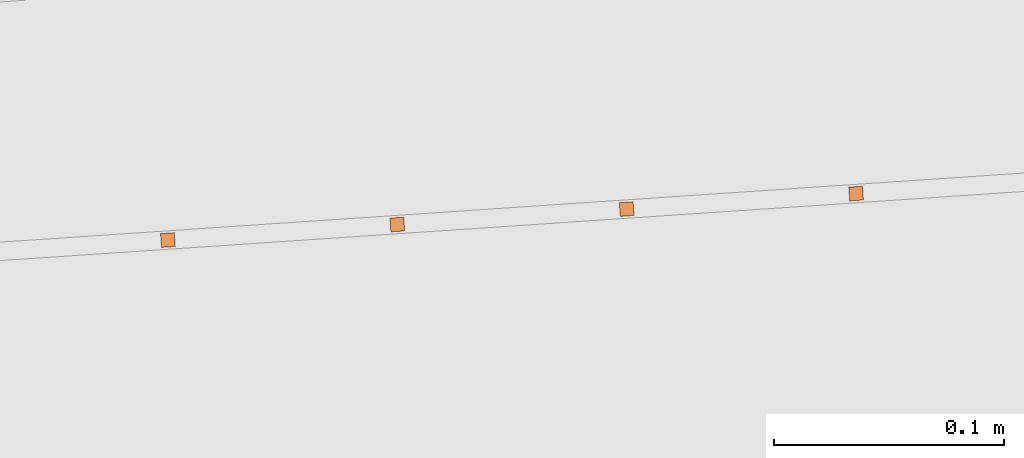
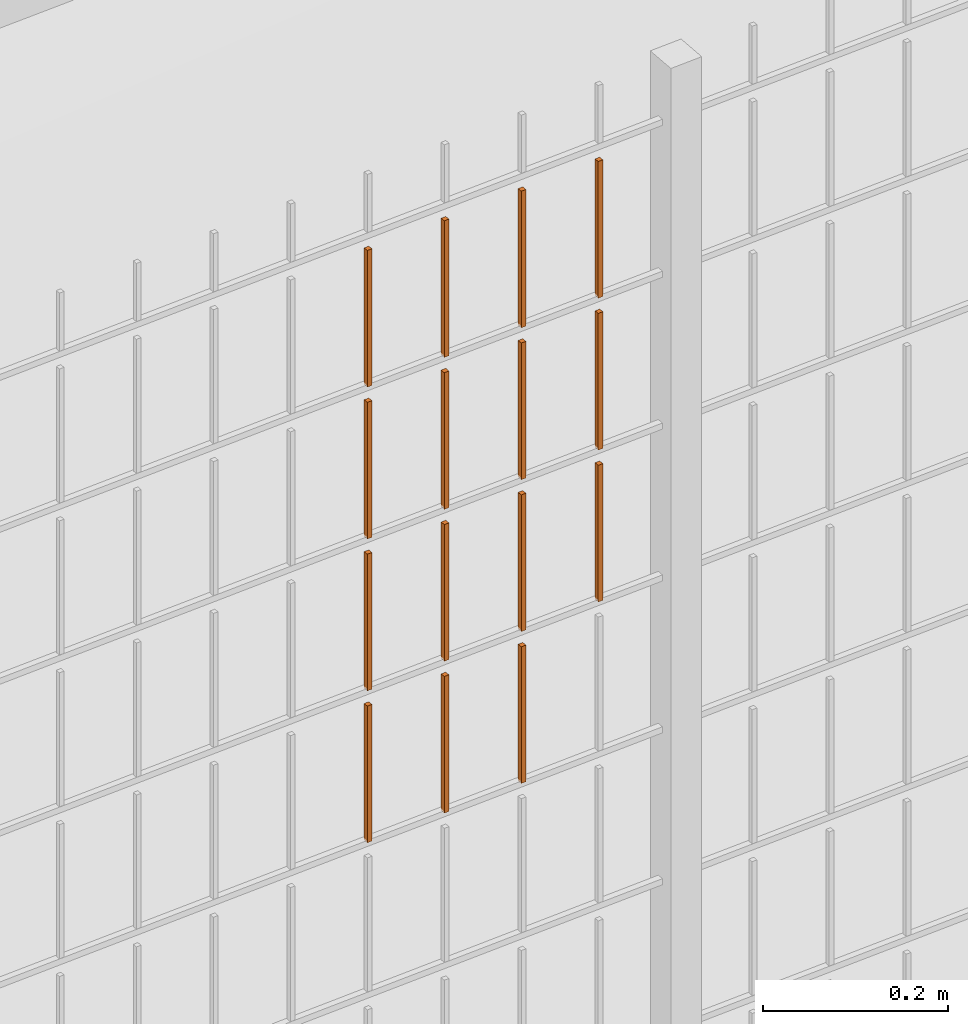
# One storey, part 285 of 1809: 15 proxies, 1 element without a shape of its own.
"""IFC2X3 building model written with IfcOpenShell, lengths in millimetres."""

from ifc_helpers import new_model, entity, si_unit, converted_unit, derived_unit, money_unit, direction, frame, origin_with_axes, place, context, subcontext, project, spatial, faceted_brep, source, transform, mapped, material, type_object, element, aggregate, save


model = new_model("IFC2X3")

# Units and contexts
model_context = context("Model", 3, precision=0.01, world=origin_with_axes(), true_north=direction((0.0, 1.0)))
body_context = subcontext(model_context, "Body", "Model", "MODEL_VIEW")
ifc_project = project(units=[si_unit("LENGTHUNIT", "METRE", prefix="MILLI"), si_unit("AREAUNIT", "SQUARE_METRE"), si_unit("VOLUMEUNIT", "CUBIC_METRE"), converted_unit("PLANEANGLEUNIT", "DEGREE", entity("IfcPlaneAngleMeasure", 0.0174532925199), si_unit("PLANEANGLEUNIT", "RADIAN"), dimensions=[0, 0, 0, 0, 0, 0, 0]), si_unit("SOLIDANGLEUNIT", "STERADIAN"), money_unit("EUR"), converted_unit("TIMEUNIT", "Year", entity("IfcTimeMeasure", 31556926.0), si_unit("TIMEUNIT", "SECOND"), dimensions=[0, 0, 1, 0, 0, 0, 0]), si_unit("MASSUNIT", "GRAM", prefix="KILO"), si_unit("THERMODYNAMICTEMPERATUREUNIT", "DEGREE_CELSIUS"), si_unit("LUMINOUSINTENSITYUNIT", "LUMEN"), si_unit("ENERGYUNIT", "JOULE", prefix="MEGA"), derived_unit("THERMALCONDUCTANCEUNIT", [(si_unit("POWERUNIT", "WATT"), 1), (si_unit("LENGTHUNIT", "METRE"), -1), (si_unit("THERMODYNAMICTEMPERATUREUNIT", "KELVIN"), -1)]), derived_unit("SPECIFICHEATCAPACITYUNIT", [(si_unit("ENERGYUNIT", "JOULE"), 1), (si_unit("MASSUNIT", "GRAM", prefix="KILO"), -1), (si_unit("THERMODYNAMICTEMPERATUREUNIT", "KELVIN"), -1)]), derived_unit("MASSDENSITYUNIT", [(si_unit("MASSUNIT", "GRAM", prefix="KILO"), 1), (si_unit("VOLUMEUNIT", "CUBIC_METRE"), -1)])], contexts=[model_context])

# Site, building, storey
site_placement = place(None, origin_with_axes())
site = spatial("IfcSite", under=ifc_project, at=site_placement, Name="Politse- ja Piirivalveameti ning Päästeameti ühishoone", CompositionType="ELEMENT")
building_placement = place(site_placement, origin_with_axes())
building = spatial("IfcBuilding", under=site, at=building_placement, Name="Politse- ja Piirivalveameti ning Päästeameti ühishoone", CompositionType="ELEMENT")
storey_placement = place(building_placement, origin_with_axes())
storey = spatial("IfcBuildingStorey", under=building, at=storey_placement, Name="Esimene korrus", CompositionType="ELEMENT", Elevation=0.0)

# Proxies
building_element_proxy_type_1 = type_object("IfcBuildingElementProxyType", Name="Railing Type", PredefinedType="NOTDEFINED")
proxy_1_placement = place(storey_placement, frame((89252.001212, -29183.4766571, 203.661247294), z_axis=(0.0, 0.0, 1.0), x_axis=(1.0, 0.0, 0.0)))
proxy_1 = element("IfcBuildingElementProxy", 1, at=proxy_1_placement, inside=storey, type_object=building_element_proxy_type_1, Name="PIIRDEAED")
ifc_material = material(Name="ET-03_Raud")
building_element_proxy_type_2 = type_object("IfcBuildingElementProxyType", Name="IfcBuildingElementProxy", PredefinedType="NOTDEFINED")
shared_shape_1 = source(origin_with_axes(), body_context, "Body", "Brep", [
    faceted_brep([(3.0, 3.0, -0.000752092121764), (-3.0, 3.0, -0.000752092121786), (-3.0, 3.0, 179.99926046), (3.0, 3.0, 179.99926046), (3.0, -3.0, 0.000752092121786), (-3.0, -3.0, 0.000752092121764), (-3.0, -3.0, 180.000764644), (3.0, -3.0, 180.000764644)], [[[0, 1, 2, 3]], [[0, 4, 5, 1]], [[1, 5, 6, 2]], [[3, 2, 6, 7]], [[4, 0, 3, 7]], [[5, 4, 7, 6]]]),
])
proxy_2_placement = place(proxy_1_placement, frame((-49912.9538068, -20669.2064266, 1414.69282621), z_axis=(0.0, 0.0, 1.0), x_axis=(1.0, 0.0, 0.0)))
proxy_2 = element("IfcBuildingElementProxy", 2, at=proxy_2_placement, type_object=building_element_proxy_type_2, material=ifc_material, Name="BALUSTER - 001", context=body_context, shape_type="MappedRepresentation", body=[
    mapped(shared_shape_1, transform((0.0, 0.0, 0.0), x_axis=(-0.0673926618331, 0.997726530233, 0.0), y_axis=(-0.997726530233, -0.0673926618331, 0.0), z_axis=(0.0, 0.0, 1.0))),
])
proxy_3_placement = place(proxy_1_placement, frame((-49912.9538068, -20669.2064266, 1614.69282621), z_axis=(0.0, 0.0, 1.0), x_axis=(1.0, 0.0, 0.0)))
proxy_3 = element("IfcBuildingElementProxy", 3, at=proxy_3_placement, type_object=building_element_proxy_type_2, material=ifc_material, Name="BALUSTER - 001", context=body_context, shape_type="MappedRepresentation", body=[
    mapped(shared_shape_1, transform((0.0, 0.0, 0.0), x_axis=(-0.0673926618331, 0.997726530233, 0.0), y_axis=(-0.997726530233, -0.0673926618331, 0.0), z_axis=(0.0, 0.0, 1.0))),
])
shared_shape_2 = source(origin_with_axes(), body_context, "Body", "Brep", [
    faceted_brep([(3.0, 3.0, -0.000752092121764), (-3.0, 3.0, -0.000752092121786), (-3.0, 3.0, 179.99926046), (3.0, 3.0, 179.99926046), (3.0, -3.0, 0.000752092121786), (-3.0, -3.0, 0.000752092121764), (-3.0, -3.0, 180.000764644), (3.0, -3.0, 180.000764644)], [[[0, 1, 2, 3]], [[0, 4, 5, 1]], [[1, 5, 6, 2]], [[3, 2, 6, 7]], [[4, 0, 3, 7]], [[5, 4, 7, 6]]]),
])
proxy_4_placement = place(proxy_1_placement, frame((-49912.9538068, -20669.2064266, 1214.69282621), z_axis=(0.0, 0.0, 1.0), x_axis=(1.0, 0.0, 0.0)))
proxy_4 = element("IfcBuildingElementProxy", 4, at=proxy_4_placement, type_object=building_element_proxy_type_2, material=ifc_material, Name="BALUSTER - 001", context=body_context, shape_type="MappedRepresentation", body=[
    mapped(shared_shape_2, transform((0.0, 0.0, 0.0), x_axis=(-0.0673926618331, 0.997726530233, 0.0), y_axis=(-0.997726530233, -0.0673926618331, 0.0), z_axis=(0.0, 0.0, 1.0))),
])
shared_shape_3 = source(origin_with_axes(), body_context, "Body", "Brep", [
    faceted_brep([(3.0, 3.0, -0.000752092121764), (-3.0, 3.0, -0.000752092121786), (-3.0, 3.0, 179.99926046), (3.0, 3.0, 179.99926046), (3.0, -3.0, 0.000752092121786), (-3.0, -3.0, 0.000752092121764), (-3.0, -3.0, 180.000764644), (3.0, -3.0, 180.000764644)], [[[0, 1, 2, 3]], [[0, 4, 5, 1]], [[1, 5, 6, 2]], [[3, 2, 6, 7]], [[4, 0, 3, 7]], [[5, 4, 7, 6]]]),
])
proxy_5_placement = place(proxy_1_placement, frame((-49912.9538068, -20669.2064266, 1814.69282621), z_axis=(0.0, 0.0, 1.0), x_axis=(1.0, 0.0, 0.0)))
proxy_5 = element("IfcBuildingElementProxy", 5, at=proxy_5_placement, type_object=building_element_proxy_type_2, material=ifc_material, Name="BALUSTER - 001", context=body_context, shape_type="MappedRepresentation", body=[
    mapped(shared_shape_3, transform((0.0, 0.0, 0.0), x_axis=(-0.0673926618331, 0.997726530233, 0.0), y_axis=(-0.997726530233, -0.0673926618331, 0.0), z_axis=(0.0, 0.0, 1.0))),
])
shared_shape_4 = source(origin_with_axes(), body_context, "Body", "Brep", [
    faceted_brep([(3.0, 3.0, -0.000752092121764), (-3.0, 3.0, -0.000752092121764), (-3.0, 3.0, 179.99926046), (3.0, 3.0, 179.99926046), (3.0, -3.0, 0.000752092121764), (-3.0, -3.0, 0.000752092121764), (-3.0, -3.0, 180.000764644), (3.0, -3.0, 180.000764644)], [[[0, 1, 2, 3]], [[0, 4, 5, 1]], [[1, 5, 6, 2]], [[3, 2, 6, 7]], [[4, 0, 3, 7]], [[5, 4, 7, 6]]]),
])
proxy_6_placement = place(proxy_1_placement, frame((-49813.1811538, -20662.4671604, 1414.71789595), z_axis=(0.0, 0.0, 1.0), x_axis=(1.0, 0.0, 0.0)))
proxy_6 = element("IfcBuildingElementProxy", 6, at=proxy_6_placement, type_object=building_element_proxy_type_2, material=ifc_material, Name="BALUSTER - 001", context=body_context, shape_type="MappedRepresentation", body=[
    mapped(shared_shape_4, transform((0.0, 0.0, 0.0), x_axis=(-0.0673926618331, 0.997726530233, 0.0), y_axis=(-0.997726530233, -0.0673926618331, 0.0), z_axis=(0.0, 0.0, 1.0))),
])
proxy_7_placement = place(proxy_1_placement, frame((-49813.1811538, -20662.4671604, 1614.71789595), z_axis=(0.0, 0.0, 1.0), x_axis=(1.0, 0.0, 0.0)))
proxy_7 = element("IfcBuildingElementProxy", 7, at=proxy_7_placement, type_object=building_element_proxy_type_2, material=ifc_material, Name="BALUSTER - 001", context=body_context, shape_type="MappedRepresentation", body=[
    mapped(shared_shape_4, transform((0.0, 0.0, 0.0), x_axis=(-0.0673926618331, 0.997726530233, 0.0), y_axis=(-0.997726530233, -0.0673926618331, 0.0), z_axis=(0.0, 0.0, 1.0))),
])
shared_shape_5 = source(origin_with_axes(), body_context, "Body", "Brep", [
    faceted_brep([(3.0, 3.0, -0.000752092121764), (-3.0, 3.0, -0.000752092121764), (-3.0, 3.0, 179.99926046), (3.0, 3.0, 179.99926046), (3.0, -3.0, 0.000752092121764), (-3.0, -3.0, 0.000752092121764), (-3.0, -3.0, 180.000764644), (3.0, -3.0, 180.000764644)], [[[0, 1, 2, 3]], [[0, 4, 5, 1]], [[1, 5, 6, 2]], [[3, 2, 6, 7]], [[4, 0, 3, 7]], [[5, 4, 7, 6]]]),
])
proxy_8_placement = place(proxy_1_placement, frame((-49813.1811538, -20662.4671604, 1814.71789595), z_axis=(0.0, 0.0, 1.0), x_axis=(1.0, 0.0, 0.0)))
proxy_8 = element("IfcBuildingElementProxy", 8, at=proxy_8_placement, type_object=building_element_proxy_type_2, material=ifc_material, Name="BALUSTER - 001", context=body_context, shape_type="MappedRepresentation", body=[
    mapped(shared_shape_5, transform((0.0, 0.0, 0.0), x_axis=(-0.0673926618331, 0.997726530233, 0.0), y_axis=(-0.997726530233, -0.0673926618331, 0.0), z_axis=(0.0, 0.0, 1.0))),
])
shared_shape_6 = source(origin_with_axes(), body_context, "Body", "Brep", [
    faceted_brep([(3.0, 3.0, -0.000752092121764), (-3.0, 3.0, -0.000752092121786), (-3.0, 3.0, 179.99926046), (3.0, 3.0, 179.99926046), (3.0, -3.0, 0.000752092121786), (-3.0, -3.0, 0.000752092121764), (-3.0, -3.0, 180.000764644), (3.0, -3.0, 180.000764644)], [[[0, 1, 2, 3]], [[0, 4, 5, 1]], [[1, 5, 6, 2]], [[3, 2, 6, 7]], [[4, 0, 3, 7]], [[5, 4, 7, 6]]]),
])
proxy_9_placement = place(proxy_1_placement, frame((-50112.4991129, -20682.6849589, 1214.64268674), z_axis=(0.0, 0.0, 1.0), x_axis=(1.0, 0.0, 0.0)))
proxy_9 = element("IfcBuildingElementProxy", 9, at=proxy_9_placement, type_object=building_element_proxy_type_2, material=ifc_material, Name="BALUSTER - 001", context=body_context, shape_type="MappedRepresentation", body=[
    mapped(shared_shape_6, transform((0.0, 0.0, 0.0), x_axis=(-0.0673926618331, 0.997726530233, 0.0), y_axis=(-0.997726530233, -0.0673926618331, 0.0), z_axis=(0.0, 0.0, 1.0))),
])
shared_shape_7 = source(origin_with_axes(), body_context, "Body", "Brep", [
    faceted_brep([(3.0, 3.0, -0.000752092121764), (-3.0, 3.0, -0.000752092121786), (-3.0, 3.0, 179.99926046), (3.0, 3.0, 179.99926046), (3.0, -3.0, 0.000752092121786), (-3.0, -3.0, 0.000752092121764), (-3.0, -3.0, 180.000764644), (3.0, -3.0, 180.000764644)], [[[0, 1, 2, 3]], [[0, 4, 5, 1]], [[1, 5, 6, 2]], [[3, 2, 6, 7]], [[4, 0, 3, 7]], [[5, 4, 7, 6]]]),
])
proxy_10_placement = place(proxy_1_placement, frame((-50112.4991129, -20682.6849589, 1814.64268674), z_axis=(0.0, 0.0, 1.0), x_axis=(1.0, 0.0, 0.0)))
proxy_10 = element("IfcBuildingElementProxy", 10, at=proxy_10_placement, type_object=building_element_proxy_type_2, material=ifc_material, Name="BALUSTER - 001", context=body_context, shape_type="MappedRepresentation", body=[
    mapped(shared_shape_7, transform((0.0, 0.0, 0.0), x_axis=(-0.0673926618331, 0.997726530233, 0.0), y_axis=(-0.997726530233, -0.0673926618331, 0.0), z_axis=(0.0, 0.0, 1.0))),
])
shared_shape_8 = source(origin_with_axes(), body_context, "Body", "Brep", [
    faceted_brep([(3.0, 3.0, -0.000752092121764), (-3.0, 3.0, -0.000752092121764), (-3.0, 3.0, 179.99926046), (3.0, 3.0, 179.99926046), (3.0, -3.0, 0.000752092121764), (-3.0, -3.0, 0.000752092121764), (-3.0, -3.0, 180.000764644), (3.0, -3.0, 180.000764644)], [[[0, 1, 2, 3]], [[0, 4, 5, 1]], [[1, 5, 6, 2]], [[3, 2, 6, 7]], [[4, 0, 3, 7]], [[5, 4, 7, 6]]]),
])
proxy_11_placement = place(proxy_1_placement, frame((-50012.7264599, -20675.9456927, 1814.66775647), z_axis=(0.0, 0.0, 1.0), x_axis=(1.0, 0.0, 0.0)))
proxy_11 = element("IfcBuildingElementProxy", 11, at=proxy_11_placement, type_object=building_element_proxy_type_2, material=ifc_material, Name="BALUSTER - 001", context=body_context, shape_type="MappedRepresentation", body=[
    mapped(shared_shape_8, transform((0.0, 0.0, 0.0), x_axis=(-0.0673926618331, 0.997726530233, 0.0), y_axis=(-0.997726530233, -0.0673926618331, 0.0), z_axis=(0.0, 0.0, 1.0))),
])
shared_shape_9 = source(origin_with_axes(), body_context, "Body", "Brep", [
    faceted_brep([(3.0, 3.0, -0.000752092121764), (-3.0, 3.0, -0.000752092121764), (-3.0, 3.0, 179.99926046), (3.0, 3.0, 179.99926046), (3.0, -3.0, 0.000752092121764), (-3.0, -3.0, 0.000752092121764), (-3.0, -3.0, 180.000764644), (3.0, -3.0, 180.000764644)], [[[0, 1, 2, 3]], [[0, 4, 5, 1]], [[1, 5, 6, 2]], [[3, 2, 6, 7]], [[4, 0, 3, 7]], [[5, 4, 7, 6]]]),
])
proxy_12_placement = place(proxy_1_placement, frame((-50012.7264599, -20675.9456927, 1214.66775647), z_axis=(0.0, 0.0, 1.0), x_axis=(1.0, 0.0, 0.0)))
proxy_12 = element("IfcBuildingElementProxy", 12, at=proxy_12_placement, type_object=building_element_proxy_type_2, material=ifc_material, Name="BALUSTER - 001", context=body_context, shape_type="MappedRepresentation", body=[
    mapped(shared_shape_9, transform((0.0, 0.0, 0.0), x_axis=(-0.0673926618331, 0.997726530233, 0.0), y_axis=(-0.997726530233, -0.0673926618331, 0.0), z_axis=(0.0, 0.0, 1.0))),
])
shared_shape_10 = source(origin_with_axes(), body_context, "Body", "Brep", [
    faceted_brep([(3.0, 3.0, -0.000752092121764), (-3.0, 3.0, -0.000752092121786), (-3.0, 3.0, 179.99926046), (3.0, 3.0, 179.99926046), (3.0, -3.0, 0.000752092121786), (-3.0, -3.0, 0.000752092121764), (-3.0, -3.0, 180.000764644), (3.0, -3.0, 180.000764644)], [[[0, 1, 2, 3]], [[0, 4, 5, 1]], [[1, 5, 6, 2]], [[3, 2, 6, 7]], [[4, 0, 3, 7]], [[5, 4, 7, 6]]]),
])
proxy_13_placement = place(proxy_1_placement, frame((-50112.4991129, -20682.6849589, 1414.64268674), z_axis=(0.0, 0.0, 1.0), x_axis=(1.0, 0.0, 0.0)))
proxy_13 = element("IfcBuildingElementProxy", 13, at=proxy_13_placement, type_object=building_element_proxy_type_2, material=ifc_material, Name="BALUSTER - 001", context=body_context, shape_type="MappedRepresentation", body=[
    mapped(shared_shape_10, transform((0.0, 0.0, 0.0), x_axis=(-0.0673926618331, 0.997726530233, 0.0), y_axis=(-0.997726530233, -0.0673926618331, 0.0), z_axis=(0.0, 0.0, 1.0))),
])
proxy_14_placement = place(proxy_1_placement, frame((-50112.4991129, -20682.6849589, 1614.64268674), z_axis=(0.0, 0.0, 1.0), x_axis=(1.0, 0.0, 0.0)))
proxy_14 = element("IfcBuildingElementProxy", 14, at=proxy_14_placement, type_object=building_element_proxy_type_2, material=ifc_material, Name="BALUSTER - 001", context=body_context, shape_type="MappedRepresentation", body=[
    mapped(shared_shape_10, transform((0.0, 0.0, 0.0), x_axis=(-0.0673926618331, 0.997726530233, 0.0), y_axis=(-0.997726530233, -0.0673926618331, 0.0), z_axis=(0.0, 0.0, 1.0))),
])
shared_shape_11 = source(origin_with_axes(), body_context, "Body", "Brep", [
    faceted_brep([(3.0, 3.0, -0.000752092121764), (-3.0, 3.0, -0.000752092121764), (-3.0, 3.0, 179.99926046), (3.0, 3.0, 179.99926046), (3.0, -3.0, 0.000752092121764), (-3.0, -3.0, 0.000752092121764), (-3.0, -3.0, 180.000764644), (3.0, -3.0, 180.000764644)], [[[0, 1, 2, 3]], [[0, 4, 5, 1]], [[1, 5, 6, 2]], [[3, 2, 6, 7]], [[4, 0, 3, 7]], [[5, 4, 7, 6]]]),
])
proxy_15_placement = place(proxy_1_placement, frame((-50012.7264599, -20675.9456927, 1414.66775647), z_axis=(0.0, 0.0, 1.0), x_axis=(1.0, 0.0, 0.0)))
proxy_15 = element("IfcBuildingElementProxy", 15, at=proxy_15_placement, type_object=building_element_proxy_type_2, material=ifc_material, Name="BALUSTER - 001", context=body_context, shape_type="MappedRepresentation", body=[
    mapped(shared_shape_11, transform((0.0, 0.0, 0.0), x_axis=(-0.0673926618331, 0.997726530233, 0.0), y_axis=(-0.997726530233, -0.0673926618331, 0.0), z_axis=(0.0, 0.0, 1.0))),
])
proxy_16_placement = place(proxy_1_placement, frame((-50012.7264599, -20675.9456927, 1614.66775647), z_axis=(0.0, 0.0, 1.0), x_axis=(1.0, 0.0, 0.0)))
proxy_16 = element("IfcBuildingElementProxy", 16, at=proxy_16_placement, type_object=building_element_proxy_type_2, material=ifc_material, Name="BALUSTER - 001", context=body_context, shape_type="MappedRepresentation", body=[
    mapped(shared_shape_11, transform((0.0, 0.0, 0.0), x_axis=(-0.0673926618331, 0.997726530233, 0.0), y_axis=(-0.997726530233, -0.0673926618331, 0.0), z_axis=(0.0, 0.0, 1.0))),
])
aggregate(proxy_1, [proxy_4, proxy_12, proxy_9, proxy_6, proxy_2, proxy_15, proxy_13, proxy_7, proxy_3, proxy_16, proxy_14, proxy_8, proxy_5, proxy_11, proxy_10])

save(model, "model.ifc")
